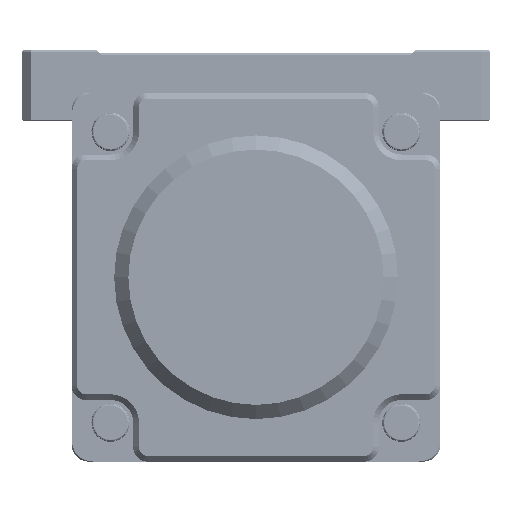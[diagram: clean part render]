
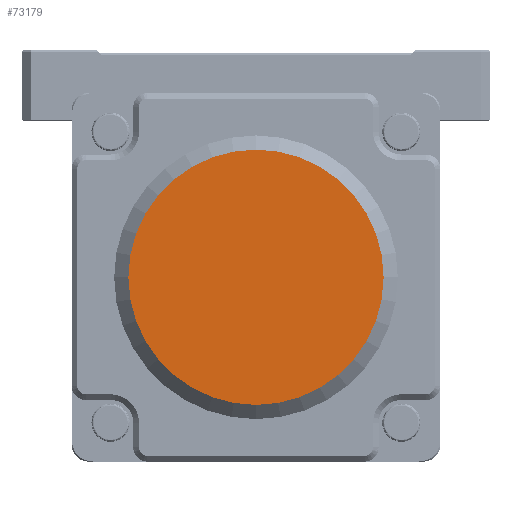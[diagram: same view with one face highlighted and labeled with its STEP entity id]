
A CAD part, front view. The second image highlights one B-rep face of the part: STEP entity #73179.
In plain terms, the highlighted planar face has unit normal (0, -1, 0) as drawn and (0, 1, 0) by its records, which use the part's own axes.
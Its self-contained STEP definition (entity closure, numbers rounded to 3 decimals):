
#71257=CARTESIAN_POINT('',(0.,166.,0.));
#71258=DIRECTION('',(0.,1.,0.));
#71259=DIRECTION('',(-1.,0.,0.));
#71260=AXIS2_PLACEMENT_3D('',#71257,#71258,#71259);
#71262=CARTESIAN_POINT('',(0.,166.,0.));
#71263=DIRECTION('',(0.,1.,0.));
#71264=DIRECTION('',(1.,0.,0.));
#71265=AXIS2_PLACEMENT_3D('',#71262,#71263,#71264);
#72124=CARTESIAN_POINT('',(-45.,166.,0.));
#72125=CARTESIAN_POINT('',(45.,166.,0.));
#72126=VERTEX_POINT('',#72124);
#72127=VERTEX_POINT('',#72125);
#73169=CARTESIAN_POINT('',(0.,166.,0.));
#73170=DIRECTION('',(0.,1.,0.));
#73171=DIRECTION('',(1.,0.,0.));
#73172=AXIS2_PLACEMENT_3D('',#73169,#73170,#73171);
#73173=PLANE('',#73172);
#73175=ORIENTED_EDGE('',*,*,#73174,.F.);
#73176=ORIENTED_EDGE('',*,*,#73159,.F.);
#73177=EDGE_LOOP('',(#73175,#73176));
#73178=FACE_OUTER_BOUND('',#73177,.F.);
#73179=ADVANCED_FACE('',(#73178),#73173,.T.);
#71261=CIRCLE('',#71260,45.);
#71266=CIRCLE('',#71265,45.);
#73159=EDGE_CURVE('',#72127,#72126,#71266,.T.);
#73174=EDGE_CURVE('',#72126,#72127,#71261,.T.);
